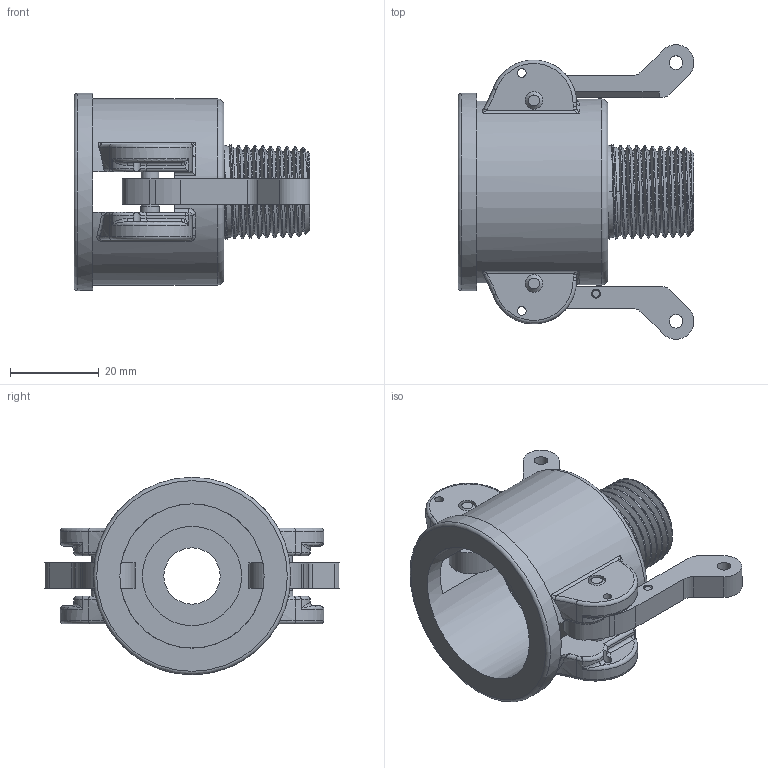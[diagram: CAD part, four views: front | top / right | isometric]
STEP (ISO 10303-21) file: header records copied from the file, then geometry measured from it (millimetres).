
FILE_DESCRIPTION(/* description */ ('Alibre Inc.'),/* implementation_level */ '2;1');
FILE_NAME(/* name */ 'export0',/* time_stamp */ '2015-12-30T13:22:52-05:00',/* author */ (''),/* organization */ (''),/* preprocessor_version */ 'ST-DEVELOPER v14',/* originating_system */ 'Alibre',/* authorisation */ '');
FILE_SCHEMA (('CONFIG_CONTROL_DESIGN'));
Length unit declared in the file: centimetre
Products named in the file (5): ID_1; ID_2; ID_3; ID_4
Bounding box: 53.16 x 66.36 x 44.45 mm (x, y, z)
Volume: 33647.6 mm3; surface area: 20177.8 mm2
Topology: 6 solids, 6 shells, 250 faces, 656 edges, 411 vertices
Faces by surface type: cylinder 71, plane 67, torus 41, cone 35, bspline 35, sphere 1
Full cylindrical faces by diameter (mm): 1.981 x4, 3.048 x2, 3.962 x6, 4.216 x2, 4.242 x2, 12.7 x1, 22.352 x1, 32.512 x1, 35.052 x1, 35.814 x1, 41.91 x1, 44.45 x1
Entity records: 34380 total; most frequent: CARTESIAN_POINT 29005, ORIENTED_EDGE 1104, DIRECTION 804, EDGE_CURVE 552, AXIS2_PLACEMENT_3D 361, VERTEX_POINT 358, EDGE_LOOP 270, FACE_BOUND 270
